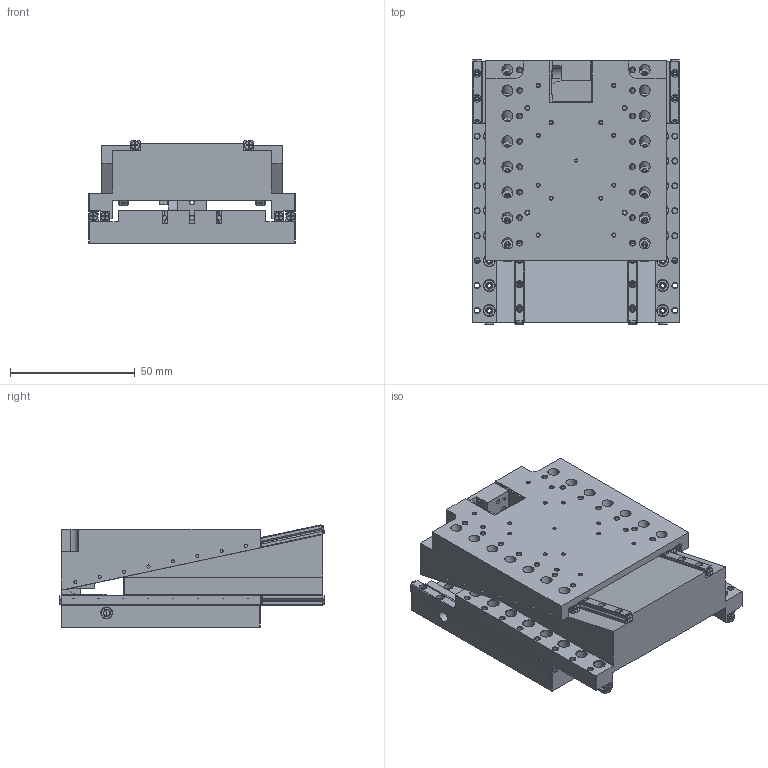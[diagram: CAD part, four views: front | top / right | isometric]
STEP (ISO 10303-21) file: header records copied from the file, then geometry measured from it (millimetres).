
FILE_DESCRIPTION(/* description */ ('Unknown'),/* implementation_level */ '2;1');
FILE_NAME(/* name */ 'XVP lowest position (0 mm) ',/* time_stamp */ '2022-07-28T16:48:13+02:00',/* author */ ('Simon Gulix'),/* organization */ ('KU Leuven'),/* preprocessor_version */ 'ST-DEVELOPER v18.1',/* originating_system */ 'Solid Edge',/* authorisation */ 'Unknown');
FILE_SCHEMA (('AUTOMOTIVE_DESIGN {1 0 10303 214 3 1 1}'));
Length unit declared in the file: millimetre
Products named in the file (7): wig finaal; bottom; SV1080- 21Z Body; top; middle; cable; m1.6 6mm
Assembly tree (16 placements, depth 2):
  wig finaal
    bottom
    SV1080- 21Z Body  x8
    top
    middle
    cable  x3
    m1.6 6mm  x2
Bounding box: 83 x 106.75 x 41.01 mm (x, y, z)
Volume: 187093.7 mm3; surface area: 77142.1 mm2
Topology: 16 solids, 16 shells, 1456 faces, 3560 edges, 2263 vertices
Faces by surface type: plane 685, cylinder 449, cone 322
Full cylindrical faces by diameter (mm): 1.25 x113, 1.567 x64, 1.6 x32, 1.8 x11, 2.05 x36, 2.4 x32, 2.5 x2, 3 x68, 3.3 x5, 3.5 x4, 3.6 x16, 4.4 x34
Entity records: 27064 total; most frequent: DIRECTION 3891, CARTESIAN_POINT 3386, ORIENTED_EDGE 2754, AXIS2_PLACEMENT_3D 1666, EDGE_LOOP 1629, FACE_BOUND 1629, EDGE_CURVE 1377, VERTEX_POINT 1132
